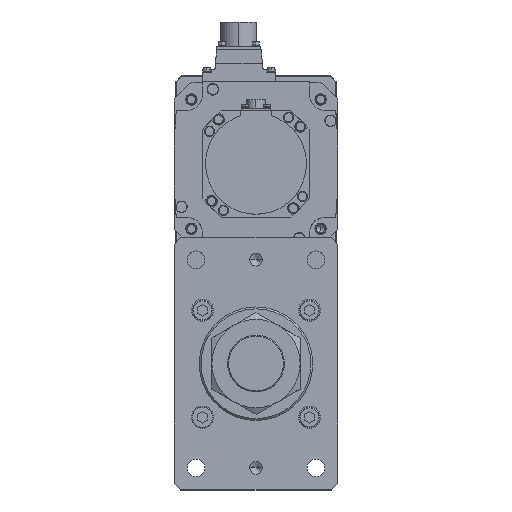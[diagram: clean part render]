
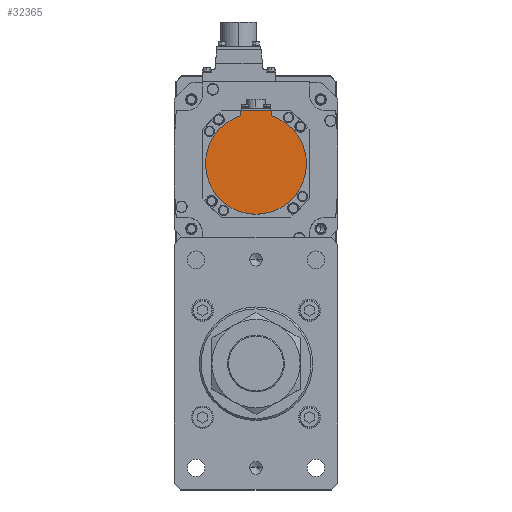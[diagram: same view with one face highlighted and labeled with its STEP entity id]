
A CAD part, top view. The second image highlights one B-rep face of the part: STEP entity #32365.
In plain terms, the highlighted planar face has unit normal (0, 0, 1) as drawn and (0, 0, -1) by its records, which use the part's own axes.
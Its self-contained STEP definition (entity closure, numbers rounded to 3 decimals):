
#4 = CARTESIAN_POINT ( 'NONE',  ( 0., 0., -146.5 ) ) ;
#444 = CARTESIAN_POINT ( 'NONE',  ( -12., -42.5, -146.5 ) ) ;
#473 = ORIENTED_EDGE ( 'NONE', *, *, #28404, .F. ) ;
#698 = CARTESIAN_POINT ( 'NONE',  ( 12., -42.5, -146.5 ) ) ;
#973 = DIRECTION ( 'NONE',  ( 0., 1., 0. ) ) ;
#2535 = DIRECTION ( 'NONE',  ( 0., 0., 1. ) ) ;
#2608 = ORIENTED_EDGE ( 'NONE', *, *, #13153, .F. ) ;
#3197 = EDGE_CURVE ( 'NONE', #30162, #5358, #12949, .T. ) ;
#3704 = AXIS2_PLACEMENT_3D ( 'NONE', #26476, #2535, #18798 ) ;
#4278 = EDGE_CURVE ( 'NONE', #15373, #32011, #8977, .T. ) ;
#5358 = VERTEX_POINT ( 'NONE', #22190 ) ;
#7190 = VERTEX_POINT ( 'NONE', #10261 ) ;
#8906 = CARTESIAN_POINT ( 'NONE',  ( -12., -38.158, -146.5 ) ) ;
#8977 = LINE ( 'NONE', #33105, #28973 ) ;
#9756 = ORIENTED_EDGE ( 'NONE', *, *, #16125, .F. ) ;
#10261 = CARTESIAN_POINT ( 'NONE',  ( -40., 0., -146.5 ) ) ;
#12949 = LINE ( 'NONE', #13966, #15872 ) ;
#13153 = EDGE_CURVE ( 'NONE', #7190, #32011, #28124, .T. ) ;
#13701 = DIRECTION ( 'NONE',  ( 0., 0., 1. ) ) ;
#13966 = CARTESIAN_POINT ( 'NONE',  ( 12., -1.249, -146.5 ) ) ;
#14352 = AXIS2_PLACEMENT_3D ( 'NONE', #21065, #23424, #18274 ) ;
#15373 = VERTEX_POINT ( 'NONE', #444 ) ;
#15872 = VECTOR ( 'NONE', #30166, 1000. ) ;
#16125 = EDGE_CURVE ( 'NONE', #5358, #25519, #31526, .T. ) ;
#16400 = DIRECTION ( 'NONE',  ( 1., 0., 0. ) ) ;
#16895 = LINE ( 'NONE', #22604, #30210 ) ;
#18274 = DIRECTION ( 'NONE',  ( 1., 0., 0. ) ) ;
#18499 = ORIENTED_EDGE ( 'NONE', *, *, #4278, .T. ) ;
#18798 = DIRECTION ( 'NONE',  ( 1., 0., 0. ) ) ;
#20244 = AXIS2_PLACEMENT_3D ( 'NONE', #21464, #24149, #32050 ) ;
#21065 = CARTESIAN_POINT ( 'NONE',  ( 0., 0., -146.5 ) ) ;
#21295 = AXIS2_PLACEMENT_3D ( 'NONE', #4, #13701, #16400 ) ;
#21464 = CARTESIAN_POINT ( 'NONE',  ( 0., -1.249, -146.5 ) ) ;
#22190 = CARTESIAN_POINT ( 'NONE',  ( 12., -38.158, -146.5 ) ) ;
#22604 = CARTESIAN_POINT ( 'NONE',  ( 0., -42.5, -146.5 ) ) ;
#23424 = DIRECTION ( 'NONE',  ( 0., 0., 1. ) ) ;
#24037 = PLANE ( 'NONE',  #20244 ) ;
#24149 = DIRECTION ( 'NONE',  ( 0., 0., 1. ) ) ;
#25519 = VERTEX_POINT ( 'NONE', #31936 ) ;
#26331 = EDGE_CURVE ( 'NONE', #30162, #15373, #16895, .T. ) ;
#26476 = CARTESIAN_POINT ( 'NONE',  ( 0., 0., -146.5 ) ) ;
#26763 = ORIENTED_EDGE ( 'NONE', *, *, #26331, .T. ) ;
#28124 = CIRCLE ( 'NONE', #21295, 40. ) ;
#28404 = EDGE_CURVE ( 'NONE', #25519, #7190, #31794, .T. ) ;
#28973 = VECTOR ( 'NONE', #973, 1000. ) ;
#29301 = FACE_OUTER_BOUND ( 'NONE', #30801, .T. ) ;
#30162 = VERTEX_POINT ( 'NONE', #698 ) ;
#30166 = DIRECTION ( 'NONE',  ( 0., 1., 0. ) ) ;
#30210 = VECTOR ( 'NONE', #33310, 1000. ) ;
#30382 = ORIENTED_EDGE ( 'NONE', *, *, #3197, .F. ) ;
#30801 = EDGE_LOOP ( 'NONE', ( #18499, #2608, #473, #9756, #30382, #26763 ) ) ;
#31526 = CIRCLE ( 'NONE', #3704, 40. ) ;
#31794 = CIRCLE ( 'NONE', #14352, 40. ) ;
#31936 = CARTESIAN_POINT ( 'NONE',  ( 40., 0., -146.5 ) ) ;
#32011 = VERTEX_POINT ( 'NONE', #8906 ) ;
#32050 = DIRECTION ( 'NONE',  ( 1., 0., 0. ) ) ;
#32365 = ADVANCED_FACE ( 'NONE', ( #29301 ), #24037, .F. ) ;
#33105 = CARTESIAN_POINT ( 'NONE',  ( -12., -40.329, -146.5 ) ) ;
#33310 = DIRECTION ( 'NONE',  ( -1., 0., 0. ) ) ;
